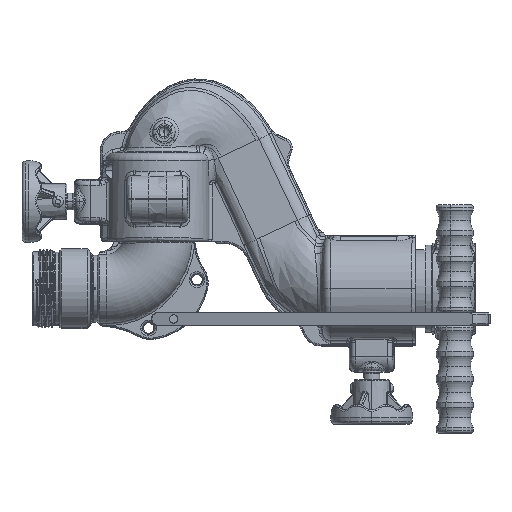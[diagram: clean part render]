
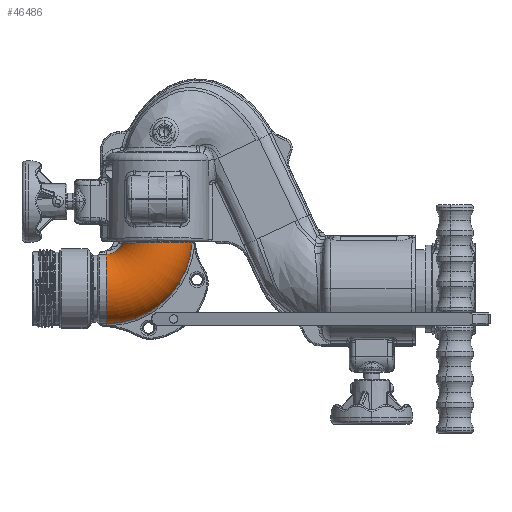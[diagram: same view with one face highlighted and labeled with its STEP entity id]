
A CAD part, left-side view. The second image highlights one B-rep face of the part: STEP entity #46486.
In plain terms, the highlighted toroidal (fillet/blend) face has major radius 50.8 mm and minor radius 34.925 mm.
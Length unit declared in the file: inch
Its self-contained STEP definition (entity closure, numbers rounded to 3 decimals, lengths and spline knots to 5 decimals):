
#533 = EDGE_CURVE ( 'NONE', #46000, #53814, #48475, .T. ) ;
#1576 = DIRECTION ( 'NONE',  ( -1., 0., 0. ) ) ;
#2848 = ORIENTED_EDGE ( 'NONE', *, *, #46043, .T. ) ;
#3380 = ORIENTED_EDGE ( 'NONE', *, *, #533, .T. ) ;
#4321 = DIRECTION ( 'NONE',  ( 0., -1., 0. ) ) ;
#6038 = CARTESIAN_POINT ( 'NONE',  ( -1.21227, 7.75683, 1.7782 ) ) ;
#6750 = CARTESIAN_POINT ( 'NONE',  ( -1.40916, 7.51155, 1.78856 ) ) ;
#6886 = DIRECTION ( 'NONE',  ( 0., 1., 0. ) ) ;
#7075 = CARTESIAN_POINT ( 'NONE',  ( -1.61644, 6.91895, 1.80108 ) ) ;
#7437 = CARTESIAN_POINT ( 'NONE',  ( -1.48474, 7.3718, 1.79252 ) ) ;
#10825 = AXIS2_PLACEMENT_3D ( 'NONE', #13594, #28616, #69844 ) ;
#13594 = CARTESIAN_POINT ( 'NONE',  ( -0.25, 8.75, 0. ) ) ;
#14057 = CARTESIAN_POINT ( 'NONE',  ( -1.26652, 7.69925, 1.78111 ) ) ;
#15098 = CARTESIAN_POINT ( 'NONE',  ( -0.81974, 5.50153, 1.81167 ) ) ;
#15238 = DIRECTION ( 'NONE',  ( 1., 0., 0. ) ) ;
#15440 = CARTESIAN_POINT ( 'NONE',  ( -1.36543, 7.57695, 1.78631 ) ) ;
#17302 = CARTESIAN_POINT ( 'NONE',  ( -0.51801, 8.75, 2. ) ) ;
#22042 = CARTESIAN_POINT ( 'NONE',  ( -1.59856, 6.48709, 1.80582 ) ) ;
#22390 = CARTESIAN_POINT ( 'NONE',  ( -0.99151, 5.59705, 1.81127 ) ) ;
#22726 = CARTESIAN_POINT ( 'NONE',  ( -1.36266, 5.94765, 1.80957 ) ) ;
#23071 = CARTESIAN_POINT ( 'NONE',  ( -0.53646, 8.14729, 1.74312 ) ) ;
#23427 = CARTESIAN_POINT ( 'NONE',  ( -1.59014, 6.44797, 1.80615 ) ) ;
#28616 = DIRECTION ( 'NONE',  ( 0., -1., 0. ) ) ;
#29094 = CIRCLE ( 'NONE', #34915, 3.34863 ) ;
#30053 = CARTESIAN_POINT ( 'NONE',  ( -0.53646, 8.14729, 1.74312 ) ) ;
#30124 = CARTESIAN_POINT ( 'NONE',  ( -0.51801, 5.40665, 1.81204 ) ) ;
#30788 = EDGE_CURVE ( 'NONE', #52686, #76744, #34434, .T. ) ;
#30803 = CARTESIAN_POINT ( 'NONE',  ( -1.62495, 6.80066, 1.8026 ) ) ;
#31164 = CARTESIAN_POINT ( 'NONE',  ( -1.11937, 5.69038, 1.81086 ) ) ;
#31507 = CARTESIAN_POINT ( 'NONE',  ( -1.57109, 7.15184, 1.7974 ) ) ;
#34434 = B_SPLINE_CURVE_WITH_KNOTS ( 'NONE', 3,
 ( #30124, #79001, #102014, #71317, #54670, #87355, #39571, #15098, #38530, #22390, #94316, #38183, #87002, #31164, #95016, #46611, #62349, #93981, #22726, #94659, #39225, #47327, #45914, #70638, #78670, #23427, #22042, #79340, #55375, #30803, #63383, #7075, #63033, #102368, #31507, #86648, #78330, #7437, #85968, #6750, #15440, #101677, #14057, #53983, #6038, #62686, #38880, #61993, #69967, #46967, #54323, #102720, #77972, #55035, #70995, #23071 ),
 .UNSPECIFIED., .F., .F.,
 ( 4, 2, 2, 2, 2, 2, 2, 2, 2, 2, 2, 2, 2, 2, 2, 2, 2, 2, 2, 2, 2, 2, 2, 2, 2, 2, 2, 4 ),
 ( 0.11354, 0.11657, 0.11809, 0.11961, 0.12568, 0.12872, 0.13024, 0.13176, 0.13783, 0.14087, 0.1439, 0.14998, 0.15301, 0.15605, 0.16213, 0.16516, 0.1682, 0.17427, 0.17731, 0.18035, 0.18642, 0.18946, 0.19097, 0.19249, 0.19857, 0.2016, 0.20464, 0.21071 ),
 .UNSPECIFIED. ) ;
#34915 = AXIS2_PLACEMENT_3D ( 'NONE', #17302, #1576, #41093 ) ;
#35428 = CARTESIAN_POINT ( 'NONE',  ( -0.25, 8.75, 2. ) ) ;
#35722 = TOROIDAL_SURFACE ( 'NONE', #95592, 2., 1.375 ) ;
#38183 = CARTESIAN_POINT ( 'NONE',  ( -1.07241, 5.65364, 1.81103 ) ) ;
#38530 = CARTESIAN_POINT ( 'NONE',  ( -0.89043, 5.53624, 1.81153 ) ) ;
#38880 = CARTESIAN_POINT ( 'NONE',  ( -1.16955, 7.79849, 1.77588 ) ) ;
#39225 = CARTESIAN_POINT ( 'NONE',  ( -1.42836, 6.04705, 1.80899 ) ) ;
#39571 = CARTESIAN_POINT ( 'NONE',  ( -0.72712, 5.46567, 1.81181 ) ) ;
#41093 = DIRECTION ( 'NONE',  ( 0., 1., 0. ) ) ;
#45914 = CARTESIAN_POINT ( 'NONE',  ( -1.51914, 6.22243, 1.80788 ) ) ;
#46000 = VERTEX_POINT ( 'NONE', #61116 ) ;
#46043 = EDGE_CURVE ( 'NONE', #76744, #46000, #101906, .T. ) ;
#46486 = ADVANCED_FACE ( 'NONE', ( #95692 ), #35722, .T. ) ;
#46611 = CARTESIAN_POINT ( 'NONE',  ( -1.20969, 5.76813, 1.8105 ) ) ;
#46967 = CARTESIAN_POINT ( 'NONE',  ( -0.93528, 7.97829, 1.76277 ) ) ;
#47327 = CARTESIAN_POINT ( 'NONE',  ( -1.48665, 6.15076, 1.80836 ) ) ;
#48475 = CIRCLE ( 'NONE', #10825, 1.375 ) ;
#51252 = EDGE_CURVE ( 'NONE', #53814, #52686, #29094, .T. ) ;
#52265 = DIRECTION ( 'NONE',  ( -1., 0., 0. ) ) ;
#52686 = VERTEX_POINT ( 'NONE', #54385 ) ;
#53772 = ORIENTED_EDGE ( 'NONE', *, *, #51252, .T. ) ;
#53814 = VERTEX_POINT ( 'NONE', #64691 ) ;
#53983 = CARTESIAN_POINT ( 'NONE',  ( -1.22607, 7.74261, 1.77894 ) ) ;
#54323 = CARTESIAN_POINT ( 'NONE',  ( -0.90147, 7.9986, 1.76086 ) ) ;
#54385 = CARTESIAN_POINT ( 'NONE',  ( -0.51801, 5.40665, 1.81204 ) ) ;
#54670 = CARTESIAN_POINT ( 'NONE',  ( -0.67068, 5.44613, 1.81189 ) ) ;
#55035 = CARTESIAN_POINT ( 'NONE',  ( -0.68762, 8.10247, 1.74942 ) ) ;
#55178 = CARTESIAN_POINT ( 'NONE',  ( -0.53646, 8.75, 2. ) ) ;
#55375 = CARTESIAN_POINT ( 'NONE',  ( -1.62509, 6.68268, 1.80397 ) ) ;
#61116 = CARTESIAN_POINT ( 'NONE',  ( -0.53646, 8.75, 1.34483 ) ) ;
#61781 = EDGE_LOOP ( 'NONE', ( #3380, #53772, #64816, #2848 ) ) ;
#61993 = CARTESIAN_POINT ( 'NONE',  ( -1.0963, 7.8653, 1.77185 ) ) ;
#62349 = CARTESIAN_POINT ( 'NONE',  ( -1.26446, 5.82466, 1.81022 ) ) ;
#62686 = CARTESIAN_POINT ( 'NONE',  ( -1.184, 7.78477, 1.77667 ) ) ;
#63033 = CARTESIAN_POINT ( 'NONE',  ( -1.6113, 6.95863, 1.80051 ) ) ;
#63383 = CARTESIAN_POINT ( 'NONE',  ( -1.62324, 6.84004, 1.80212 ) ) ;
#64691 = CARTESIAN_POINT ( 'NONE',  ( -0.51801, 8.75, -1.34863 ) ) ;
#64816 = ORIENTED_EDGE ( 'NONE', *, *, #30788, .T. ) ;
#69844 = DIRECTION ( 'NONE',  ( 0., 0., 1. ) ) ;
#69967 = CARTESIAN_POINT ( 'NONE',  ( -1.03404, 7.91354, 1.76834 ) ) ;
#70638 = CARTESIAN_POINT ( 'NONE',  ( -1.55857, 6.33364, 1.80707 ) ) ;
#70995 = CARTESIAN_POINT ( 'NONE',  ( -0.61318, 8.12835, 1.74588 ) ) ;
#71317 = CARTESIAN_POINT ( 'NONE',  ( -0.65178, 5.4402, 1.81191 ) ) ;
#76744 = VERTEX_POINT ( 'NONE', #30053 ) ;
#77972 = CARTESIAN_POINT ( 'NONE',  ( -0.79619, 8.05429, 1.75507 ) ) ;
#78330 = CARTESIAN_POINT ( 'NONE',  ( -1.5172, 7.29963, 1.79428 ) ) ;
#78670 = CARTESIAN_POINT ( 'NONE',  ( -1.57015, 6.37133, 1.80678 ) ) ;
#79001 = CARTESIAN_POINT ( 'NONE',  ( -0.55657, 5.41433, 1.81201 ) ) ;
#79340 = CARTESIAN_POINT ( 'NONE',  ( -1.61856, 6.60429, 1.80476 ) ) ;
#85968 = CARTESIAN_POINT ( 'NONE',  ( -1.46683, 7.40754, 1.79157 ) ) ;
#86135 = AXIS2_PLACEMENT_3D ( 'NONE', #55178, #15238, #6886 ) ;
#86648 = CARTESIAN_POINT ( 'NONE',  ( -1.53185, 7.26305, 1.7951 ) ) ;
#87002 = CARTESIAN_POINT ( 'NONE',  ( -1.0882, 5.66563, 1.81097 ) ) ;
#87355 = CARTESIAN_POINT ( 'NONE',  ( -0.70834, 5.45886, 1.81184 ) ) ;
#93981 = CARTESIAN_POINT ( 'NONE',  ( -1.33906, 5.91607, 1.80974 ) ) ;
#94316 = CARTESIAN_POINT ( 'NONE',  ( -1.02438, 5.61879, 1.81118 ) ) ;
#94659 = CARTESIAN_POINT ( 'NONE',  ( -1.40727, 6.01306, 1.80919 ) ) ;
#95016 = CARTESIAN_POINT ( 'NONE',  ( -1.13473, 5.70312, 1.8108 ) ) ;
#95592 = AXIS2_PLACEMENT_3D ( 'NONE', #35428, #52265, #4321 ) ;
#95692 = FACE_OUTER_BOUND ( 'NONE', #61781, .T. ) ;
#101677 = CARTESIAN_POINT ( 'NONE',  ( -1.2922, 7.66939, 1.78247 ) ) ;
#101906 = CIRCLE ( 'NONE', #86135, 0.65517 ) ;
#102014 = CARTESIAN_POINT ( 'NONE',  ( -0.59483, 5.42367, 1.81198 ) ) ;
#102368 = CARTESIAN_POINT ( 'NONE',  ( -1.59104, 7.07576, 1.79873 ) ) ;
#102720 = CARTESIAN_POINT ( 'NONE',  ( -0.83198, 8.03657, 1.75701 ) ) ;
